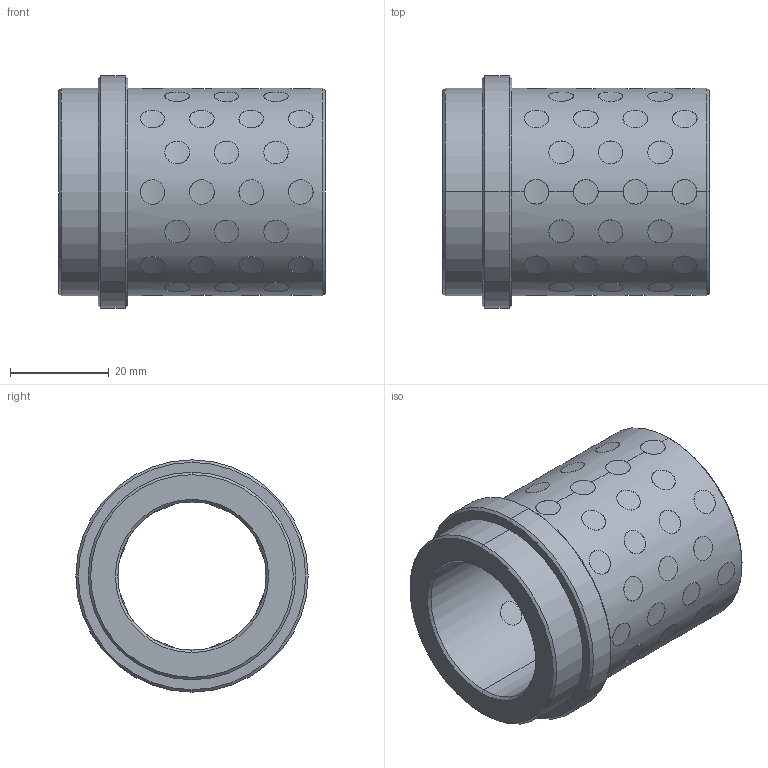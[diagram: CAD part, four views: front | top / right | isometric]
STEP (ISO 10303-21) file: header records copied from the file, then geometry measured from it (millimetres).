
FILE_DESCRIPTION((''),'2;1');
FILE_NAME('G31230046','2017-12-30T',('MANU'),(''),'PRO/ENGINEER BY PARAMETRIC TECHNOLOGY CORPORATION, 2012130','PRO/ENGINEER BY PARAMETRIC TECHNOLOGY CORPORATION, 2012130','');
FILE_SCHEMA(('CONFIG_CONTROL_DESIGN'));
Length unit declared in the file: millimetre
Products named in the file (1): G31230046
Bounding box: 54 x 47 x 47 mm (x, y, z)
Volume: 38515.4 mm3; surface area: 24656.4 mm2
Topology: 57 solids, 57 shells, 360 faces, 768 edges, 508 vertices
Faces by surface type: cylinder 344, cone 12, plane 4
Entity records: 17212 total; most frequent: CARTESIAN_POINT 10150, ORIENTED_EDGE 1536, DIRECTION 1036, EDGE_CURVE 768, VERTEX_POINT 508, B_SPLINE_CURVE_WITH_KNOTS 480, EDGE_LOOP 460, AXIS2_PLACEMENT_3D 388
